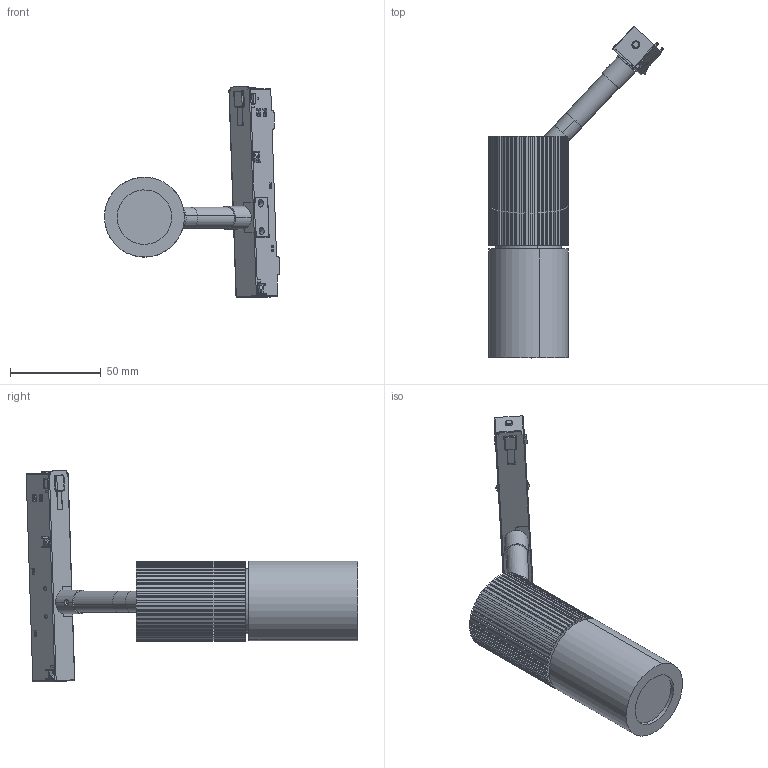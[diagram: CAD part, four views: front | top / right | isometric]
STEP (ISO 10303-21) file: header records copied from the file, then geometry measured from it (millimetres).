
FILE_DESCRIPTION (( 'STEP AP214' ), '1' );
FILE_NAME ('TURA_1313C.STEP', '2025-09-19T07:41:46', ( '' ), ( '' ), 'SwSTEP 2.0', 'SolidWorks 2018', '' );
FILE_SCHEMA (( 'AUTOMOTIVE_DESIGN' ));
Length unit declared in the file: millimetre
Products named in the file (6): rotula3 1; CABEZAL; Rotula_noon; Rotula1 1; prueba 2; TURA_1313C
Assembly tree (5 placements, depth 2):
  TURA_1313C
    CABEZAL
    rotula3 1
    Rotula1 1
    Rotula_noon
    prueba 2
Bounding box: 96.44 x 182.68 x 116.59 mm (x, y, z)
Volume: 140033.2 mm3; surface area: 72707.6 mm2
Topology: 10 solids, 39 shells, 1848 faces, 5171 edges, 3383 vertices
Faces by surface type: plane 1406, cylinder 309, bspline 77, cone 44, torus 10, sphere 2
Entity records: 81692 total; most frequent: CARTESIAN_POINT 19373, ORIENTED_EDGE 10288, DIRECTION 7751, EDGE_CURVE 5150, VERTEX_POINT 3381, LINE 3171, VECTOR 3171, AXIS2_PLACEMENT_3D 2290
